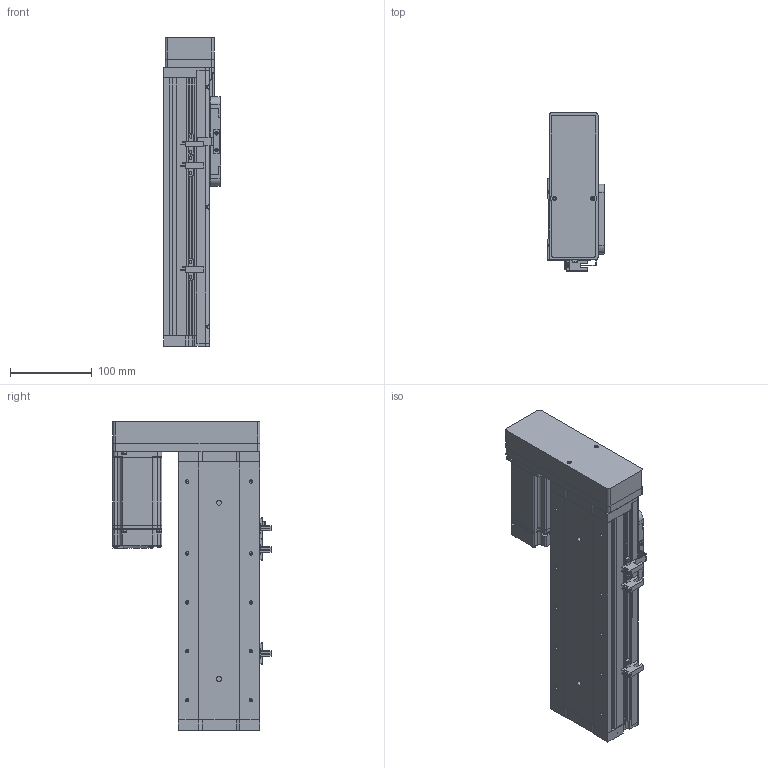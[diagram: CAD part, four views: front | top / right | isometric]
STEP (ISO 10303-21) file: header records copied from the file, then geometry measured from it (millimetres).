
FILE_DESCRIPTION (( 'STEP AP214' ), '1' );
FILE_NAME ('KSD100S-S150-ML-CR.STEP', '2019-09-02T07:56:49', ( '微软用户' ), ( '微软中国' ), 'SwSTEP 2.0', 'SolidWorks 2014', '' );
FILE_SCHEMA (( 'AUTOMOTIVE_DESIGN' ));
Length unit declared in the file: millimetre
Products named in the file (14): MHMD042G1CA_2_03; 悵誘欶酘衵殏; 100宽马达安装板连板左右折丝杆; U倰嫖萇EEㄜSX672; 感应片100宽全封闭; 100遵裔啣揤啣; 100宽马达安装板全封闭; 100宽端板全封闭; 100宽滚珠螺姆安装板1防护罩; 100宽滚珠螺姆安装板1; 100遵裔啣150俴最; 100遵耜啣150俴最佪裝; 100宽底板全封闭150行程丝杆; KSD100S-S150-ML-CR
Assembly tree (16 placements, depth 2):
  KSD100S-S150-ML-CR
    100宽底板全封闭150行程丝杆
    100遵耜啣150俴最佪裝  x2
    100遵裔啣150俴最
    100宽滚珠螺姆安装板1
    100宽滚珠螺姆安装板1防护罩
    100宽端板全封闭
    100宽马达安装板全封闭
    100遵裔啣揤啣
    感应片100宽全封闭
    U倰嫖萇EEㄜSX672  x3
    100宽马达安装板连板左右折丝杆
    悵誘欶酘衵殏
    MHMD042G1CA_2_03
Bounding box: 70 x 193.7 x 378.5 mm (x, y, z)
Volume: 912884.3 mm3; surface area: 443690.7 mm2
Topology: 15 solids, 16 shells, 1528 faces, 4269 edges, 2752 vertices
Faces by surface type: plane 688, cylinder 645, cone 177, bspline 18
Entity records: 51418 total; most frequent: CARTESIAN_POINT 8009, DIRECTION 7341, ORIENTED_EDGE 6828, EDGE_CURVE 3486, AXIS2_PLACEMENT_3D 2600, VERTEX_POINT 2314, LINE 2141, VECTOR 2141
